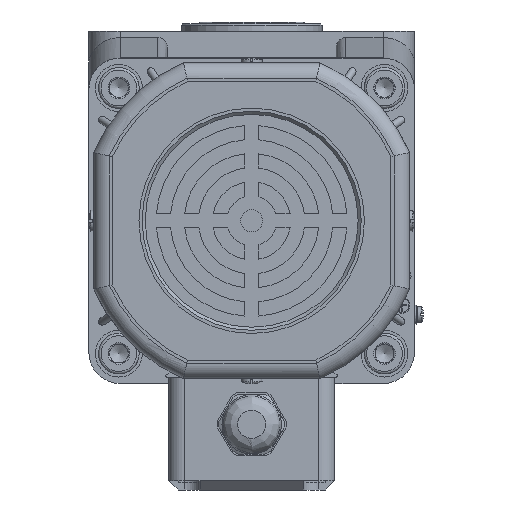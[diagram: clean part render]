
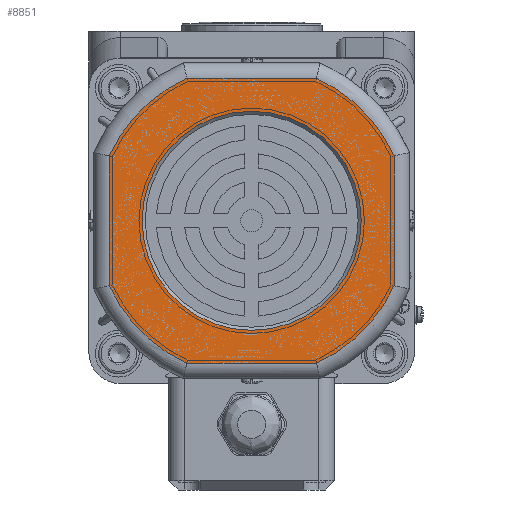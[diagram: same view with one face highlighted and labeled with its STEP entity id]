
A CAD part, left-side view. The second image highlights one B-rep face of the part: STEP entity #8851.
In plain terms, the highlighted planar face has unit normal (-1, 0, 0).
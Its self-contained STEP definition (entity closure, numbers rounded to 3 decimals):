
#1244=PLANE('',#34276);
#5126=LINE('',#51944,#6976);
#5127=LINE('',#51949,#6977);
#5128=LINE('',#51953,#6978);
#5129=LINE('',#51957,#6979);
#6976=VECTOR('',#40556,1.);
#6977=VECTOR('',#40559,1.);
#6978=VECTOR('',#40562,1.);
#6979=VECTOR('',#40565,1.);
#8851=ADVANCED_FACE('',(#11031,#11032),#1244,.F.);
#11031=FACE_BOUND('',#12706,.T.);
#11032=FACE_BOUND('',#12707,.T.);
#12706=EDGE_LOOP('',(#18362,#18363,#18364,#18365,#18366,#18367,#18368,#18369));
#12707=EDGE_LOOP('',(#18370));
#18362=ORIENTED_EDGE('',*,*,#28318,.T.);
#18363=ORIENTED_EDGE('',*,*,#28319,.T.);
#18364=ORIENTED_EDGE('',*,*,#28320,.T.);
#18365=ORIENTED_EDGE('',*,*,#28321,.T.);
#18366=ORIENTED_EDGE('',*,*,#28322,.T.);
#18367=ORIENTED_EDGE('',*,*,#28323,.T.);
#18368=ORIENTED_EDGE('',*,*,#28324,.T.);
#18369=ORIENTED_EDGE('',*,*,#28325,.T.);
#18370=ORIENTED_EDGE('',*,*,#28326,.T.);
#24564=VERTEX_POINT('',#51945);
#24565=VERTEX_POINT('',#51946);
#24566=VERTEX_POINT('',#51948);
#24567=VERTEX_POINT('',#51950);
#24568=VERTEX_POINT('',#51952);
#24569=VERTEX_POINT('',#51954);
#24570=VERTEX_POINT('',#51956);
#24571=VERTEX_POINT('',#51958);
#24572=VERTEX_POINT('',#51961);
#28318=EDGE_CURVE('',#24564,#24565,#5126,.T.);
#28319=EDGE_CURVE('',#24565,#24566,#31699,.T.);
#28320=EDGE_CURVE('',#24566,#24567,#5127,.T.);
#28321=EDGE_CURVE('',#24567,#24568,#31700,.T.);
#28322=EDGE_CURVE('',#24568,#24569,#5128,.T.);
#28323=EDGE_CURVE('',#24569,#24570,#31701,.T.);
#28324=EDGE_CURVE('',#24570,#24571,#5129,.T.);
#28325=EDGE_CURVE('',#24571,#24564,#31702,.T.);
#28326=EDGE_CURVE('',#24572,#24572,#31703,.T.);
#31699=CIRCLE('',#34271,50.);
#31700=CIRCLE('',#34272,50.);
#31701=CIRCLE('',#34273,50.);
#31702=CIRCLE('',#34274,50.);
#31703=CIRCLE('',#34275,35.);
#34271=AXIS2_PLACEMENT_3D('',#51947,#40557,#40558);
#34272=AXIS2_PLACEMENT_3D('',#51951,#40560,#40561);
#34273=AXIS2_PLACEMENT_3D('',#51955,#40563,#40564);
#34274=AXIS2_PLACEMENT_3D('',#51959,#40566,#40567);
#34275=AXIS2_PLACEMENT_3D('',#51960,#40568,#40569);
#34276=AXIS2_PLACEMENT_3D('',#51962,#40570,#40571);
#40556=DIRECTION('',(0.,-1.,0.));
#40557=DIRECTION('',(-1.,0.,0.));
#40558=DIRECTION('',(0.,0.,1.));
#40559=DIRECTION('',(0.,0.,1.));
#40560=DIRECTION('',(-1.,0.,0.));
#40561=DIRECTION('',(0.,0.,1.));
#40562=DIRECTION('',(0.,1.,0.));
#40563=DIRECTION('',(-1.,0.,0.));
#40564=DIRECTION('',(0.,0.,1.));
#40565=DIRECTION('',(0.,0.,-1.));
#40566=DIRECTION('',(-1.,0.,0.));
#40567=DIRECTION('',(0.,0.,1.));
#40568=DIRECTION('',(1.,0.,0.));
#40569=DIRECTION('',(0.,-1.,0.));
#40570=DIRECTION('',(1.,0.,0.));
#40571=DIRECTION('',(0.,0.,1.));
#51944=CARTESIAN_POINT('',(-204.8,-142.46,-103.991));
#51945=CARTESIAN_POINT('',(-204.8,-99.941,-103.991));
#51946=CARTESIAN_POINT('',(-204.8,-141.402,-103.991));
#51947=CARTESIAN_POINT('',(-204.8,-120.671,-58.491));
#51948=CARTESIAN_POINT('',(-204.8,-166.171,-79.221));
#51949=CARTESIAN_POINT('',(-204.8,-166.171,-36.702));
#51950=CARTESIAN_POINT('',(-204.8,-166.171,-37.76));
#51951=CARTESIAN_POINT('',(-204.8,-120.671,-58.491));
#51952=CARTESIAN_POINT('',(-204.8,-141.402,-12.991));
#51953=CARTESIAN_POINT('',(-204.8,-98.882,-12.991));
#51954=CARTESIAN_POINT('',(-204.8,-99.941,-12.991));
#51955=CARTESIAN_POINT('',(-204.8,-120.671,-58.491));
#51956=CARTESIAN_POINT('',(-204.8,-75.171,-37.76));
#51957=CARTESIAN_POINT('',(-204.8,-75.171,-80.28));
#51958=CARTESIAN_POINT('',(-204.8,-75.171,-79.221));
#51959=CARTESIAN_POINT('',(-204.8,-120.671,-58.491));
#51960=CARTESIAN_POINT('',(-204.8,-120.671,-58.491));
#51961=CARTESIAN_POINT('',(-204.8,-155.671,-58.491));
#51962=CARTESIAN_POINT('',(-204.8,-120.671,-58.491));
